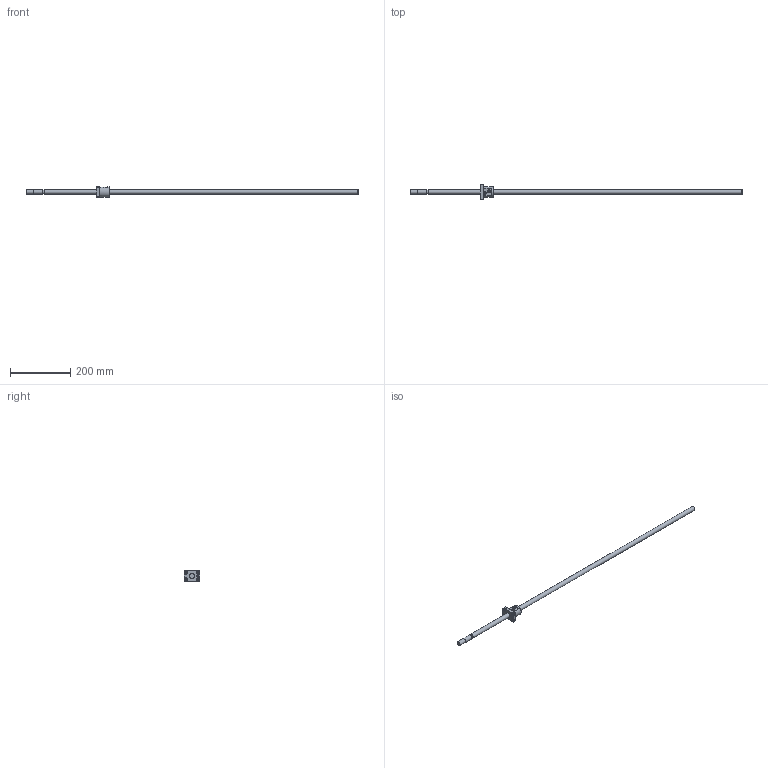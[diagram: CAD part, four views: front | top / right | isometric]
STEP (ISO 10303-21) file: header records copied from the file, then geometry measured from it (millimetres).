
FILE_DESCRIPTION (( 'STEP AP214' ), '1' );
FILE_NAME ('KBS(C)1505-1100.STEP', '2021-07-05T02:11:01', ( '' ), ( '' ), 'SwSTEP 2.0', 'SolidWorks 2019', '' );
FILE_SCHEMA (( 'AUTOMOTIVE_DESIGN' ));
Length unit declared in the file: millimetre
Products named in the file (3): KBS1505; KBS(C)1505-1100; KBS1505-1100
Assembly tree (2 placements, depth 2):
  KBS(C)1505-1100
    KBS1505-1100
    KBS1505
Bounding box: 1100 x 50 x 34 mm (x, y, z)
Volume: 229520.3 mm3; surface area: 64016.8 mm2
Topology: 2 solids, 2 shells, 103 faces, 262 edges, 173 vertices
Faces by surface type: plane 55, cylinder 40, cone 4, torus 4
Full cylindrical faces by diameter (mm): 3.2 x1, 5 x1, 5.5 x4, 5.6 x2, 9.5 x4, 12.5 x1, 14.5 x1, 15 x3, 17 x2, 34 x1
Entity records: 3305 total; most frequent: CARTESIAN_POINT 870, DIRECTION 464, ORIENTED_EDGE 448, EDGE_CURVE 224, AXIS2_PLACEMENT_3D 176, VERTEX_POINT 164, EDGE_LOOP 158, FACE_OUTER_BOUND 127
